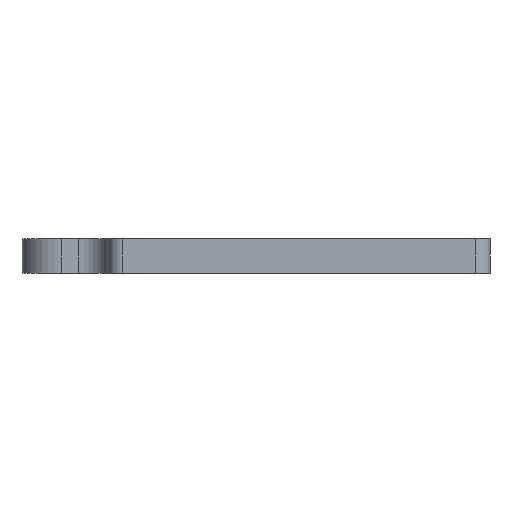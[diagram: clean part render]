
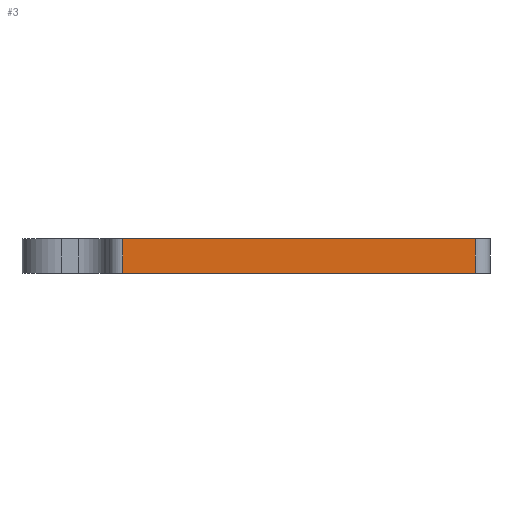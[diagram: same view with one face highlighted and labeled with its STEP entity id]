
A CAD part, front view. The second image highlights one B-rep face of the part: STEP entity #3.
In plain terms, the highlighted planar face has unit normal (0, -1, 0).
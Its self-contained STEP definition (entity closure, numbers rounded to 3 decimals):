
#3 = ADVANCED_FACE ( 'NONE', ( #1309 ), #230, .F. ) ;
#57 = CARTESIAN_POINT ( 'NONE',  ( -18., -21., 7. ) ) ;
#71 = DIRECTION ( 'NONE',  ( 1., 0., 0. ) ) ;
#91 = DIRECTION ( 'NONE',  ( 0., 0., -1. ) ) ;
#121 = CARTESIAN_POINT ( 'NONE',  ( 53.5, -21., 7. ) ) ;
#134 = CARTESIAN_POINT ( 'NONE',  ( -18., -21., 7. ) ) ;
#157 = DIRECTION ( 'NONE',  ( 0., 0., -1. ) ) ;
#200 = VERTEX_POINT ( 'NONE', #365 ) ;
#206 = DIRECTION ( 'NONE',  ( 0., 1., 0. ) ) ;
#220 = CARTESIAN_POINT ( 'NONE',  ( -18., -21., 7. ) ) ;
#226 = DIRECTION ( 'NONE',  ( 0., 0., 1. ) ) ;
#230 = PLANE ( 'NONE',  #848 ) ;
#365 = CARTESIAN_POINT ( 'NONE',  ( -18., -21., 0. ) ) ;
#388 = CARTESIAN_POINT ( 'NONE',  ( -18., -21., 7. ) ) ;
#429 = CARTESIAN_POINT ( 'NONE',  ( 53.5, -21., 0. ) ) ;
#455 = CARTESIAN_POINT ( 'NONE',  ( 53.5, -21., 7. ) ) ;
#528 = CARTESIAN_POINT ( 'NONE',  ( -18., -21., 0. ) ) ;
#537 = DIRECTION ( 'NONE',  ( 1., 0., 0. ) ) ;
#682 = VERTEX_POINT ( 'NONE', #388 ) ;
#690 = VERTEX_POINT ( 'NONE', #455 ) ;
#734 = VERTEX_POINT ( 'NONE', #429 ) ;
#772 = EDGE_CURVE ( 'NONE', #200, #734, #1464, .T. ) ;
#816 = EDGE_CURVE ( 'NONE', #682, #690, #1533, .T. ) ;
#839 = EDGE_CURVE ( 'NONE', #690, #734, #1593, .T. ) ;
#848 = AXIS2_PLACEMENT_3D ( 'NONE', #220, #206, #226 ) ;
#850 = EDGE_CURVE ( 'NONE', #682, #200, #1606, .T. ) ;
#1048 = ORIENTED_EDGE ( 'NONE', *, *, #772, .T. ) ;
#1059 = ORIENTED_EDGE ( 'NONE', *, *, #839, .F. ) ;
#1060 = ORIENTED_EDGE ( 'NONE', *, *, #850, .T. ) ;
#1113 = ORIENTED_EDGE ( 'NONE', *, *, #816, .F. ) ;
#1245 = EDGE_LOOP ( 'NONE', ( #1048, #1059, #1113, #1060 ) ) ;
#1309 = FACE_OUTER_BOUND ( 'NONE', #1245, .T. ) ;
#1464 = LINE ( 'NONE', #528, #1468 ) ;
#1468 = VECTOR ( 'NONE', #537, 1000. ) ;
#1525 = VECTOR ( 'NONE', #71, 1000. ) ;
#1533 = LINE ( 'NONE', #57, #1525 ) ;
#1561 = VECTOR ( 'NONE', #157, 1000. ) ;
#1593 = LINE ( 'NONE', #121, #1603 ) ;
#1603 = VECTOR ( 'NONE', #91, 1000. ) ;
#1606 = LINE ( 'NONE', #134, #1561 ) ;
